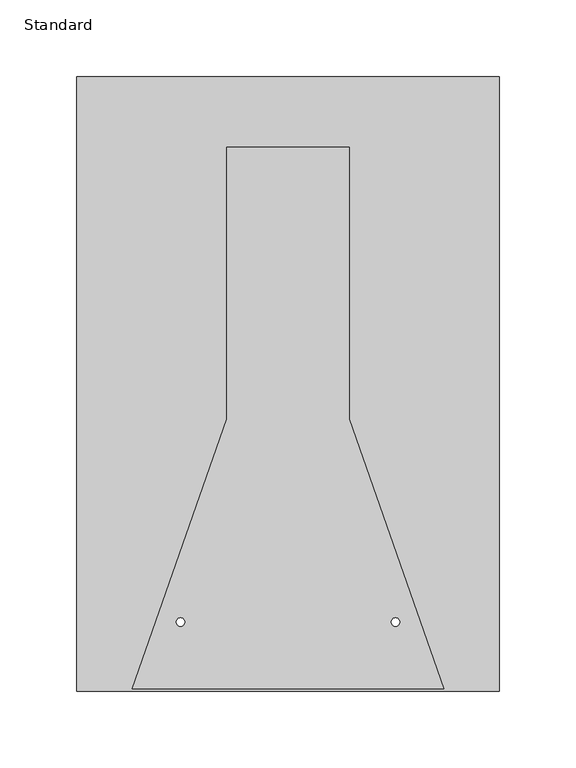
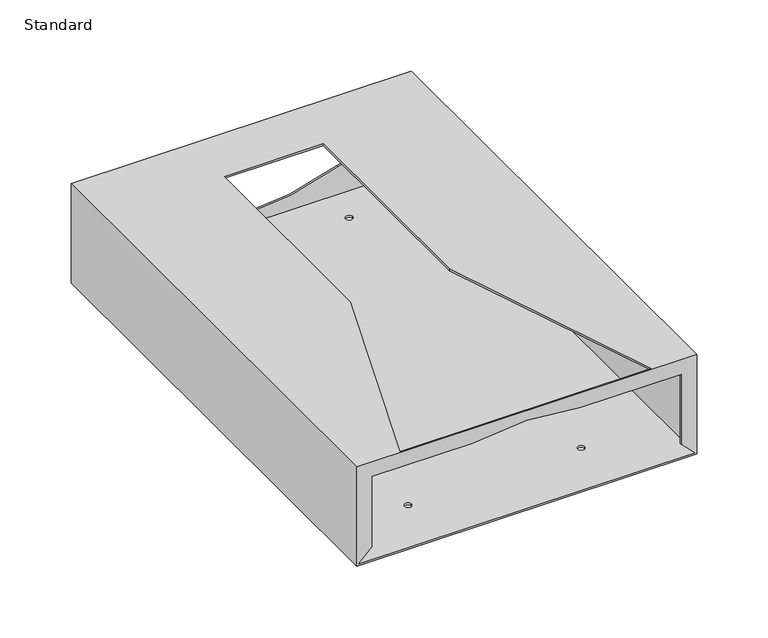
"""IFC4 building model written with IfcOpenShell, lengths in millimetres: proxy geometry, X_Paper Towel Dispenser-Wall-Duracube-Mirror Hosted : Standard."""

from ifc_helpers import new_model, si_unit, frame, origin, place, context, project, spatial, polyline, circle_curve, source, transform, mapped, element, save
from ifc_brep_helpers import plane_surface, cylinder_surface, revolved_surface, advanced_brep


def standard_1bd56ca6(model_context):
    return source(origin(), model_context, "Body", "AdvancedBrep", [
        advanced_brep(
        [(136.0, -200.0, 1.5), (136.0, -198.5, 1.5), (136.0, 198.5, 1.5), (-136.0, 198.5, 1.5), (-136.0, -198.5, 1.5), (-136.0, -200.0, 1.5), (-72.75, 170.0, 1.5), (-67.25, 170.0, 1.5), (67.25, 170.0, 1.5), (72.75, 170.0, 1.5), (-72.75, -155.0, 1.5), (-67.25, -155.0, 1.5), (67.25, -155.0, 1.5), (72.75, -155.0, 1.5), (137.5, 198.5, 0.0), (137.5, -198.5, 0.0), (137.5, -200.0, 0.0), (-137.5, -200.0, 0.0), (-137.5, -198.5, 0.0), (-137.5, 200.0, 0.0), (-136.0, 200.0, 0.0), (137.5, 200.0, 0.0), (-72.75, 170.0, 0.0), (-67.25, 170.0, 0.0), (67.25, 170.0, 0.0), (72.75, 170.0, 0.0), (-72.75, -155.0, 0.0), (-67.25, -155.0, 0.0), (67.25, -155.0, 0.0), (72.75, -155.0, 0.0), (137.5, -200.0, 85.0), (-137.5, -200.0, 85.0), (-125.0, -200.0, 12.5), (-125.0, -200.0, 72.5), (-43.6494532, -200.0, 72.5), (43.6494532, -200.0, 72.5), (125.0, -200.0, 72.5), (125.0, -200.0, 12.5), (-137.5, 200.0, 85.0), (137.5, 200.0, 85.0), (137.5, 200.0, 83.5), (-77.3089253, 200.0, 57.7778446), (-109.4192635, 200.0, 51.9068112), (-109.4192635, 200.0, 31.0397133), (-77.3089253, 200.0, 25.16868), (77.3089253, 200.0, 25.16868), (109.4192635, 200.0, 31.0397133), (109.4192635, 200.0, 51.9068112), (77.3089253, 200.0, 57.7778446), (136.0, -198.5, 83.5), (136.0, 198.5, 83.5), (-40.0, 154.1, 85.0), (40.0, 154.1, 85.0), (40.0, -23.0213291, 85.0), (101.2811657, -198.5, 85.0), (-101.2811657, -198.5, 85.0), (-40.0, -23.0213291, 85.0), (-136.0, 198.5, 83.5), (-77.3089253, 198.5, 57.7778446), (77.3089253, 198.5, 57.7778446), (109.4192635, 198.5, 51.9068112), (109.4192635, 198.5, 31.0397133), (77.3089253, 198.5, 25.16868), (-77.3089253, 198.5, 25.16868), (-109.4192635, 198.5, 31.0397133), (-109.4192635, 198.5, 51.9068112), (-40.0, 154.1, 83.5), (-40.0, -23.0213291, 83.5), (-101.2811657, -198.5, 83.5), (-136.0, -198.5, 83.5), (101.2811657, -198.5, 83.5), (40.0, -23.0213291, 83.5), (40.0, 154.1, 83.5), (-125.0, -198.5, 12.5), (125.0, -198.5, 12.5), (125.0, -198.5, 72.5), (43.6494532, -198.5, 72.5), (-43.6494532, -198.5, 72.5), (-125.0, -198.5, 72.5)],
        [
            (0, 1),
            (1, 2),
            (2, 3),
            (3, 4),
            (4, 5),
            (5, 0),
            (6, 7, circle_curve(frame((-70.0, 170.0, 1.5), z_axis=(0.0, 0.0, -1.0), x_axis=(1.0, 0.0, 0.0)), 2.75)),
            (7, 6, circle_curve(frame((-70.0, 170.0, 1.5), z_axis=(0.0, 0.0, -1.0), x_axis=(1.0, 0.0, 0.0)), 2.75)),
            (8, 9, circle_curve(frame((70.0, 170.0, 1.5), z_axis=(0.0, 0.0, -1.0), x_axis=(1.0, 0.0, 0.0)), 2.75)),
            (9, 8, circle_curve(frame((70.0, 170.0, 1.5), z_axis=(0.0, 0.0, -1.0), x_axis=(1.0, 0.0, 0.0)), 2.75)),
            (10, 11, circle_curve(frame((-70.0, -155.0, 1.5), z_axis=(0.0, 0.0, -1.0), x_axis=(1.0, 0.0, 0.0)), 2.75)),
            (11, 10, circle_curve(frame((-70.0, -155.0, 1.5), z_axis=(0.0, 0.0, -1.0), x_axis=(1.0, 0.0, 0.0)), 2.75)),
            (12, 13, circle_curve(frame((70.0, -155.0, 1.5), z_axis=(0.0, 0.0, -1.0), x_axis=(1.0, 0.0, 0.0)), 2.75)),
            (13, 12, circle_curve(frame((70.0, -155.0, 1.5), z_axis=(0.0, 0.0, -1.0), x_axis=(1.0, 0.0, 0.0)), 2.75)),
            (14, 15),
            (15, 16),
            (16, 17),
            (17, 18),
            (18, 19),
            (19, 20),
            (20, 21),
            (21, 14),
            (22, 23, circle_curve(frame((-70.0, 170.0, 0.0), z_axis=(0.0, 0.0, 1.0), x_axis=(1.0, 0.0, 0.0)), 2.75)),
            (23, 22, circle_curve(frame((-70.0, 170.0, 0.0), z_axis=(0.0, 0.0, 1.0), x_axis=(1.0, 0.0, 0.0)), 2.75)),
            (24, 25, circle_curve(frame((70.0, 170.0, 0.0), z_axis=(0.0, 0.0, 1.0), x_axis=(1.0, 0.0, 0.0)), 2.75)),
            (25, 24, circle_curve(frame((70.0, 170.0, 0.0), z_axis=(0.0, 0.0, 1.0), x_axis=(1.0, 0.0, 0.0)), 2.75)),
            (26, 27, circle_curve(frame((-70.0, -155.0, 0.0), z_axis=(0.0, 0.0, 1.0), x_axis=(1.0, 0.0, 0.0)), 2.75)),
            (27, 26, circle_curve(frame((-70.0, -155.0, 0.0), z_axis=(0.0, 0.0, 1.0), x_axis=(1.0, 0.0, 0.0)), 2.75)),
            (28, 29, circle_curve(frame((70.0, -155.0, 0.0), z_axis=(0.0, 0.0, 1.0), x_axis=(1.0, 0.0, 0.0)), 2.75)),
            (29, 28, circle_curve(frame((70.0, -155.0, 0.0), z_axis=(0.0, 0.0, 1.0), x_axis=(1.0, 0.0, 0.0)), 2.75)),
            (30, 31),
            (31, 17),
            (16, 30),
            (5, 32),
            (32, 33),
            (33, 34),
            (34, 35, circle_curve(frame((0.0, -200.0, -138.2259285), z_axis=(0.0, 1.0, 0.0), x_axis=(-1.0, 0.0, 0.0)), 215.1991908)),
            (35, 36),
            (36, 37),
            (37, 0),
            (31, 38),
            (38, 19),
            (38, 39),
            (39, 40),
            (40, 21),
            (41, 42, circle_curve(frame((-108.2384755, 200.0, 136.1945151), z_axis=(0.0, 1.0, 0.0), x_axis=(-1.0, 0.0, 0.0)), 84.2959743)),
            (42, 43, circle_curve(frame((-109.5654273, 200.0, 41.4732623), z_axis=(0.0, -1.0, 0.0), x_axis=(-1.0, 0.0, 0.0)), 10.4345727)),
            (43, 44, circle_curve(frame((-108.2384755, 200.0, -53.2479906), z_axis=(0.0, 1.0, 0.0), x_axis=(-1.0, 0.0, 0.0)), 84.2959743)),
            (44, 45, circle_curve(frame((0.0, 200.0, 221.172453), z_axis=(0.0, -1.0, 0.0), x_axis=(-1.0, 0.0, 0.0)), 210.6991908)),
            (45, 46, circle_curve(frame((108.2384755, 200.0, -53.2479906), z_axis=(0.0, 1.0, 0.0), x_axis=(-1.0, 0.0, 0.0)), 84.2959743)),
            (46, 47, circle_curve(frame((109.5654273, 200.0, 41.4732623), z_axis=(0.0, -1.0, 0.0), x_axis=(-1.0, 0.0, 0.0)), 10.4345727)),
            (47, 48, circle_curve(frame((108.2384755, 200.0, 136.1945151), z_axis=(0.0, 1.0, 0.0), x_axis=(-1.0, 0.0, 0.0)), 84.2959743)),
            (48, 41, circle_curve(frame((0.0, 200.0, -138.2259285), z_axis=(0.0, -1.0, 0.0), x_axis=(-1.0, 0.0, 0.0)), 210.6991908)),
            (39, 30),
            (7, 23),
            (22, 6),
            (9, 25),
            (24, 8),
            (11, 27),
            (26, 10),
            (13, 29),
            (28, 12),
            (1, 49),
            (49, 50),
            (50, 2),
            (51, 52),
            (52, 53),
            (53, 54),
            (54, 55),
            (55, 56),
            (56, 51),
            (50, 57),
            (57, 3),
            (58, 59, circle_curve(frame((0.0, 198.5, -138.2259285), z_axis=(0.0, 1.0, 0.0), x_axis=(-1.0, 0.0, 0.0)), 210.6991908)),
            (59, 60, circle_curve(frame((108.2384755, 198.5, 136.1945151), z_axis=(0.0, -1.0, 0.0), x_axis=(-1.0, 0.0, 0.0)), 84.2959743)),
            (60, 61, circle_curve(frame((109.5654273, 198.5, 41.4732623), z_axis=(0.0, 1.0, 0.0), x_axis=(-1.0, 0.0, 0.0)), 10.4345727)),
            (61, 62, circle_curve(frame((108.2384755, 198.5, -53.2479906), z_axis=(0.0, -1.0, 0.0), x_axis=(-1.0, 0.0, 0.0)), 84.2959743)),
            (62, 63, circle_curve(frame((0.0, 198.5, 221.172453), z_axis=(0.0, 1.0, 0.0), x_axis=(-1.0, 0.0, 0.0)), 210.6991908)),
            (63, 64, circle_curve(frame((-108.2384755, 198.5, -53.2479906), z_axis=(0.0, -1.0, 0.0), x_axis=(-1.0, 0.0, 0.0)), 84.2959743)),
            (64, 65, circle_curve(frame((-109.5654273, 198.5, 41.4732623), z_axis=(0.0, 1.0, 0.0), x_axis=(-1.0, 0.0, 0.0)), 10.4345727)),
            (65, 58, circle_curve(frame((-108.2384755, 198.5, 136.1945151), z_axis=(0.0, -1.0, 0.0), x_axis=(-1.0, 0.0, 0.0)), 84.2959743)),
            (65, 42),
            (41, 58),
            (64, 43),
            (63, 44),
            (62, 45),
            (61, 46),
            (60, 47),
            (59, 48),
            (66, 67),
            (67, 68),
            (68, 69),
            (69, 57),
            (49, 70),
            (70, 71),
            (71, 72),
            (72, 66),
            (66, 51),
            (56, 67),
            (55, 68),
            (70, 54),
            (53, 71),
            (52, 72),
            (69, 4),
            (73, 4),
            (1, 74),
            (74, 75),
            (75, 76),
            (76, 77, circle_curve(frame((0.0, -198.5, -138.2259285), z_axis=(0.0, -1.0, 0.0), x_axis=(-1.0, 0.0, 0.0)), 215.1991908)),
            (77, 78),
            (78, 73),
            (37, 74),
            (36, 75),
            (35, 76),
            (34, 77),
            (33, 78),
            (32, 73),
        ],
        [
            plane_surface(frame((-137.5, -200.0, 1.5), z_axis=(0.0, 0.0, 1.0), x_axis=(-1.0, 0.0, 0.0))),
            plane_surface(frame((-137.5, -200.0, 0.0), z_axis=(0.0, 0.0, -1.0), x_axis=(1.0, 0.0, 0.0))),
            plane_surface(frame((137.5, -200.0, 1.5), z_axis=(0.0, -1.0, 0.0), x_axis=(0.0, 0.0, -1.0))),
            plane_surface(frame((-137.5, -200.0, 1.5), z_axis=(-1.0, 0.0, 0.0), x_axis=(0.0, 0.0, -1.0))),
            plane_surface(frame((-137.5, 200.0, 1.5), z_axis=(0.0, 1.0, 0.0), x_axis=(0.0, 0.0, -1.0))),
            plane_surface(frame((137.5, 200.0, 1.5), z_axis=(1.0, 0.0, 0.0), x_axis=(0.0, 0.0, -1.0))),
            revolved_surface(polyline([(-67.25, 170.0, 0.0), (-67.25, 170.0, 1.5)]), (-70.0, 170.0, 0.0), (0.0, 0.0, -1.0)),
            revolved_surface(polyline([(72.75, 170.0, 0.0), (72.75, 170.0, 1.5)]), (70.0, 170.0, 0.0), (0.0, 0.0, -1.0)),
            revolved_surface(polyline([(-67.25, -155.0, 0.0), (-67.25, -155.0, 1.5)]), (-70.0, -155.0, 0.0), (0.0, 0.0, -1.0)),
            revolved_surface(polyline([(72.75, -155.0, 0.0), (72.75, -155.0, 1.5)]), (70.0, -155.0, 0.0), (0.0, 0.0, -1.0)),
            plane_surface(frame((136.0, 200.0, 85.0), z_axis=(-1.0, 0.0, 0.0), x_axis=(0.0, 0.0, 1.0))),
            plane_surface(frame((137.5, -200.0, 85.0), z_axis=(0.0, 0.0, 1.0), x_axis=(-1.0, 0.0, 0.0))),
            plane_surface(frame((137.5, 198.5, 0.0), z_axis=(0.0, -1.0, 0.0), x_axis=(-1.0, 0.0, 0.0))),
            cylinder_surface(frame((-108.2384755, 200.0, 136.1945151), z_axis=(0.0, 1.0, 0.0), x_axis=(-1.0, 0.0, 0.0)), 84.2959743),
            revolved_surface(polyline([(-120.0, 198.5, 41.4732623), (-120.0, 200.0, 41.4732623)]), (-109.5654273, 200.0, 41.4732623), (0.0, -1.0, 0.0)),
            cylinder_surface(frame((-108.2384755, 200.0, -53.2479906), z_axis=(0.0, 1.0, 0.0), x_axis=(-1.0, 0.0, 0.0)), 84.2959743),
            revolved_surface(polyline([(-210.6991908, 198.5, 221.172453), (-210.6991908, 200.0, 221.172453)]), (0.0, 200.0, 221.172453), (0.0, -1.0, 0.0)),
            cylinder_surface(frame((108.2384755, 200.0, -53.2479906), z_axis=(0.0, 1.0, 0.0), x_axis=(-1.0, 0.0, 0.0)), 84.2959743),
            revolved_surface(polyline([(99.13085459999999, 198.5, 41.4732623), (99.13085459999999, 200.0, 41.4732623)]), (109.5654273, 200.0, 41.4732623), (0.0, -1.0, 0.0)),
            cylinder_surface(frame((108.2384755, 200.0, 136.1945151), z_axis=(0.0, 1.0, 0.0), x_axis=(-1.0, 0.0, 0.0)), 84.2959743),
            revolved_surface(polyline([(-210.6991908, 198.5, -138.2259285), (-210.6991908, 200.0, -138.2259285)]), (0.0, 200.0, -138.2259285), (0.0, -1.0, 0.0)),
            plane_surface(frame((-40.0, 154.1, 83.5), z_axis=(0.0, 0.0, -1.0), x_axis=(0.0, 1.0, 0.0))),
            plane_surface(frame((-40.0, 154.1, 85.0), z_axis=(1.0, 0.0, 0.0), x_axis=(0.0, 0.0, -1.0))),
            plane_surface(frame((-40.0, -23.0213291, 85.0), z_axis=(0.9440868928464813, -0.32969673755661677, 0.0), x_axis=(0.0, 0.0, -1.0))),
            plane_surface(frame((101.805, -200.0, 85.0), z_axis=(-0.9440868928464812, -0.32969673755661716, 0.0), x_axis=(0.0, 0.0, -1.0))),
            plane_surface(frame((40.0, -23.0213291, 85.0), z_axis=(-1.0, 0.0, 0.0), x_axis=(0.0, 0.0, -1.0))),
            plane_surface(frame((40.0, 154.1, 85.0), z_axis=(0.0, -1.0, 0.0), x_axis=(0.0, 0.0, -1.0))),
            plane_surface(frame((-136.0, -200.0, 85.0), z_axis=(1.0, 0.0, 0.0), x_axis=(0.0, 1.0, 0.0))),
            plane_surface(frame((137.5, -198.5, 0.0), z_axis=(0.0, 1.0, 0.0), x_axis=(0.7071067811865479, 0.0, -0.7071067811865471))),
            plane_surface(frame((137.5, -200.0, 0.0), z_axis=(-0.7071067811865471, 0.0, -0.7071067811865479), x_axis=(0.0, 1.0, 0.0))),
            plane_surface(frame((125.0, -200.0, 12.5), z_axis=(-1.0, 0.0, 0.0), x_axis=(0.0, 1.0, 0.0))),
            plane_surface(frame((125.0, -200.0, 72.5), z_axis=(0.0, 0.0, -1.0), x_axis=(0.0, 1.0, 0.0))),
            revolved_surface(polyline([(-215.1991908, -198.5, -138.2259285), (-215.1991908, -200.0, -138.2259285)]), (0.0, -198.5, -138.2259285), (0.0, 1.0, 0.0)),
            plane_surface(frame((-43.6494532, -200.0, 72.5), z_axis=(0.0, 0.0, -1.0), x_axis=(0.0, 1.0, 0.0))),
            plane_surface(frame((-125.0, -200.0, 72.5), z_axis=(1.0, 0.0, 0.0), x_axis=(0.0, 1.0, 0.0))),
            plane_surface(frame((-125.0, -200.0, 12.5), z_axis=(0.707106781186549, 0.0, -0.7071067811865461), x_axis=(0.0, 1.0, 0.0))),
        ],
        [
            (0, [[1, 2, 3, 4, 5, 6], [7, 8], [9, 10], [11, 12], [13, 14]]),
            (1, [[15, 16, 17, 18, 19, 20, 21, 22], [23, 24], [25, 26], [27, 28], [29, 30]]),
            (2, [[31, 32, -17, 33], [34, 35, 36, 37, 38, 39, 40, -6]]),
            (3, [[-19, -18, -32, 41, 42]]),
            (4, [[-21, -20, -42, 43, 44, 45], [46, 47, 48, 49, 50, 51, 52, 53]]),
            (5, [[-45, -44, 54, -33, -16, -15, -22]]),
            (6, [[55, -23, 56, -8]]),
            (6, [[-56, -24, -55, -7]]),
            (7, [[57, -25, 58, -10]]),
            (7, [[-58, -26, -57, -9]]),
            (8, [[59, -27, 60, -12]]),
            (8, [[-60, -28, -59, -11]]),
            (9, [[61, -29, 62, -14]]),
            (9, [[-62, -30, -61, -13]]),
            (10, [[-2, 63, 64, 65]]),
            (11, [[-54, -43, -41, -31], [66, 67, 68, 69, 70, 71]]),
            (12, [[72, 73, -3, -65], [74, 75, 76, 77, 78, 79, 80, 81]]),
            (13, [[82, -46, 83, -81]]),
            (14, [[84, -47, -82, -80]]),
            (15, [[85, -48, -84, -79]]),
            (16, [[86, -49, -85, -78]]),
            (17, [[87, -50, -86, -77]]),
            (18, [[88, -51, -87, -76]]),
            (19, [[89, -52, -88, -75]]),
            (20, [[-83, -53, -89, -74]]),
            (21, [[90, 91, 92, 93, -72, -64, 94, 95, 96, 97]]),
            (22, [[98, -71, 99, -90]]),
            (23, [[-70, 100, -91, -99]]),
            (24, [[-95, 101, -68, 102]]),
            (25, [[-102, -67, 103, -96]]),
            (26, [[-103, -66, -98, -97]]),
            (27, [[-93, 104, -4, -73]]),
            (28, [[105, -104, -92, -100, -69, -101, -94, -63, 106, 107, 108, 109, 110, 111]]),
            (29, [[-106, -1, -40, 112]]),
            (30, [[-112, -39, 113, -107]]),
            (31, [[-113, -38, 114, -108]]),
            (32, [[-114, -37, 115, -109]]),
            (33, [[-115, -36, 116, -110]]),
            (34, [[-116, -35, 117, -111]]),
            (35, [[-34, -5, -105, -117]]),
        ],
    ),
    ])


if __name__ == "__main__":
    model = new_model("IFC4")
    model_context = context("Model", 3, world=origin())
    ifc_project = project(units=[si_unit("LENGTHUNIT", "METRE", prefix="MILLI")], contexts=[model_context])
    site = spatial("IfcSite", under=ifc_project)
    building = spatial("IfcBuilding", under=site)
    placement = place(None, origin())
    standard_shape = standard_1bd56ca6(model_context)
    element("IfcBuildingElementProxy", 1, Name="X_Paper Towel Dispenser-Wall-Duracube-Mirror Hosted : Standard", ObjectType="X_Paper Towel Dispenser-Wall-Duracube-Mirror Hosted : Standard", at=placement, inside=building, context=model_context, shape_type="MappedRepresentation", body=[
        mapped(standard_shape, transform((0.0, 0.0, 0.0), x_axis=(1.0, 0.0, 0.0), y_axis=(0.0, 1.0, 0.0), z_axis=(0.0, 0.0, 1.0))),
    ])
    save(model, "model.ifc")
